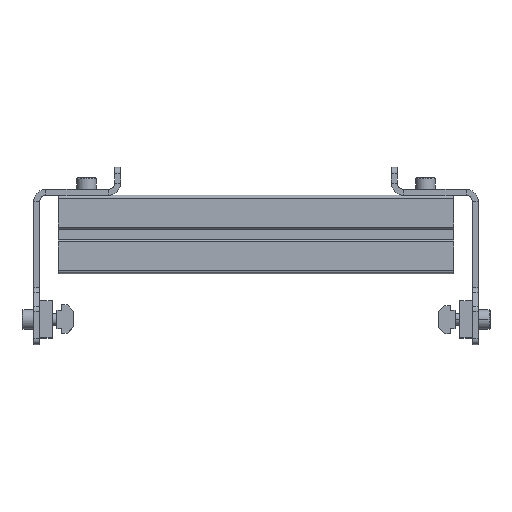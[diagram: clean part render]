
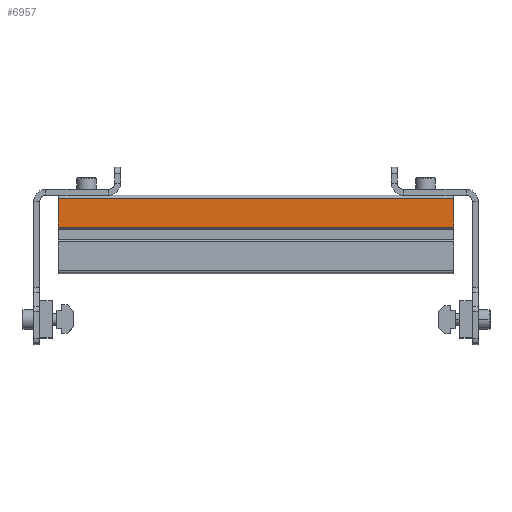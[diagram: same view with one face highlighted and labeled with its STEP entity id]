
A CAD part, top view. The second image highlights one B-rep face of the part: STEP entity #6957.
In plain terms, the highlighted planar face has unit normal (0, 0, 1) as drawn and (0, 1, 0) by its records, which use the part's own axes.
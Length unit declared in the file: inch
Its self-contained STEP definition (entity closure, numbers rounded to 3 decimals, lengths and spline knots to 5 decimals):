
#469 = EDGE_CURVE ( 'NONE', #2985, #6679, #1645, .T. ) ;
#555 = ORIENTED_EDGE ( 'NONE', *, *, #7293, .F. ) ;
#649 = VECTOR ( 'NONE', #4813, 39.37008 ) ;
#925 = LINE ( 'NONE', #3404, #649 ) ;
#1141 = DIRECTION ( 'NONE',  ( 0., -1., 0. ) ) ;
#1185 = FACE_OUTER_BOUND ( 'NONE', #6712, .T. ) ;
#1403 = DIRECTION ( 'NONE',  ( -1., 0., 0. ) ) ;
#1645 = LINE ( 'NONE', #5539, #3680 ) ;
#2071 = CARTESIAN_POINT ( 'NONE',  ( -0.725, 0.441, 3.98 ) ) ;
#2283 = CARTESIAN_POINT ( 'NONE',  ( -0.725, 0.441, -3.98 ) ) ;
#2334 = ORIENTED_EDGE ( 'NONE', *, *, #7070, .F. ) ;
#2437 = EDGE_CURVE ( 'NONE', #7312, #6679, #4699, .T. ) ;
#2455 = PLANE ( 'NONE',  #8084 ) ;
#2849 = ORIENTED_EDGE ( 'NONE', *, *, #469, .T. ) ;
#2985 = VERTEX_POINT ( 'NONE', #2283 ) ;
#3078 = CARTESIAN_POINT ( 'NONE',  ( -0.14758, 0.441, -75. ) ) ;
#3404 = CARTESIAN_POINT ( 'NONE',  ( 0.7875, 0.441, -3.98 ) ) ;
#3674 = LINE ( 'NONE', #3078, #4553 ) ;
#3680 = VECTOR ( 'NONE', #4944, 39.37008 ) ;
#4015 = ORIENTED_EDGE ( 'NONE', *, *, #2437, .F. ) ;
#4020 = CARTESIAN_POINT ( 'NONE',  ( -0.14758, 0.441, -3.98 ) ) ;
#4266 = VERTEX_POINT ( 'NONE', #4020 ) ;
#4553 = VECTOR ( 'NONE', #8258, 39.37008 ) ;
#4699 = LINE ( 'NONE', #7208, #5458 ) ;
#4813 = DIRECTION ( 'NONE',  ( 1., 0., 0. ) ) ;
#4944 = DIRECTION ( 'NONE',  ( 0., 0., 1. ) ) ;
#5458 = VECTOR ( 'NONE', #1403, 39.37008 ) ;
#5539 = CARTESIAN_POINT ( 'NONE',  ( -0.725, 0.441, 75. ) ) ;
#6263 = CARTESIAN_POINT ( 'NONE',  ( -0.7875, 0.441, 75. ) ) ;
#6388 = DIRECTION ( 'NONE',  ( 0., 0., -1. ) ) ;
#6679 = VERTEX_POINT ( 'NONE', #2071 ) ;
#6712 = EDGE_LOOP ( 'NONE', ( #2334, #555, #2849, #4015 ) ) ;
#6957 = ADVANCED_FACE ( 'NONE', ( #1185 ), #2455, .F. ) ;
#7070 = EDGE_CURVE ( 'NONE', #4266, #7312, #3674, .T. ) ;
#7208 = CARTESIAN_POINT ( 'NONE',  ( 0.7875, 0.441, 3.98 ) ) ;
#7293 = EDGE_CURVE ( 'NONE', #2985, #4266, #925, .T. ) ;
#7312 = VERTEX_POINT ( 'NONE', #8036 ) ;
#8036 = CARTESIAN_POINT ( 'NONE',  ( -0.14758, 0.441, 3.98 ) ) ;
#8084 = AXIS2_PLACEMENT_3D ( 'NONE', #6263, #1141, #6388 ) ;
#8258 = DIRECTION ( 'NONE',  ( 0., 0., 1. ) ) ;
